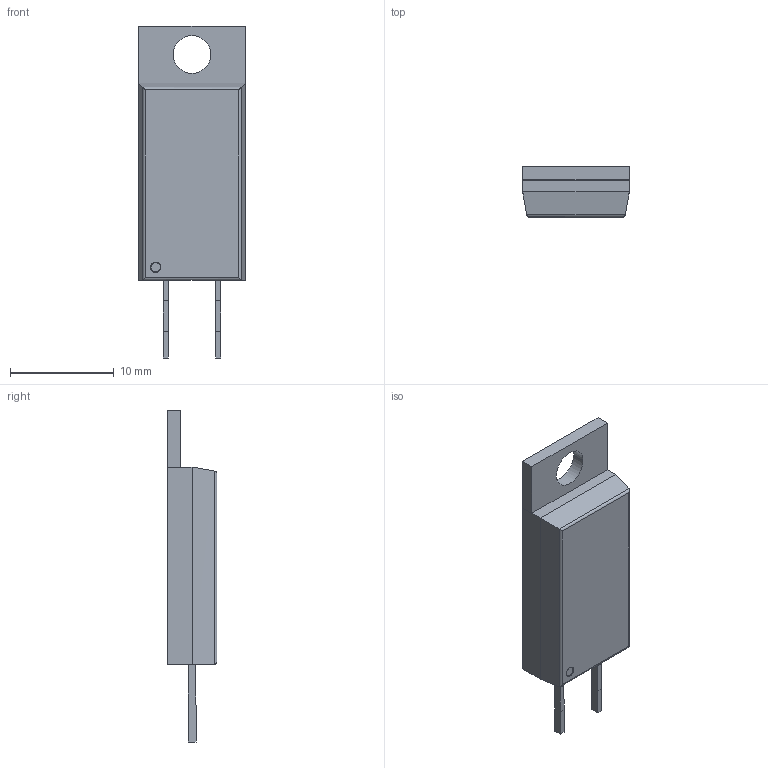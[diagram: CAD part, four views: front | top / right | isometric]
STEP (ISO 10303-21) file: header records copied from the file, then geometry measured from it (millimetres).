
FILE_DESCRIPTION (( 'STEP AP214' ), '1' );
FILE_NAME ( 'TO508P482X1029X482-2.STEP', '2021-10-06T06:48:58', ( '' ), ( '' ), '', '©2017 PCB Libraries, Inc.', '' );
FILE_SCHEMA (( 'AUTOMOTIVE_DESIGN' ));
Length unit declared in the file: millimetre
Products named in the file (1): TO508P482X1029X482-2
Bounding box: 10.29 x 4.82 x 32.02 mm (x, y, z)
Volume: 983.7 mm3; surface area: 834.4 mm2
Topology: 4 solids, 4 shells, 44 faces, 101 edges, 66 vertices
Faces by surface type: plane 36, cylinder 6, torus 2
Entity records: 1422 total; most frequent: CARTESIAN_POINT 230, ORIENTED_EDGE 202, DIRECTION 195, EDGE_CURVE 101, VECTOR 85, LINE 85, VERTEX_POINT 66, AXIS2_PLACEMENT_3D 55
